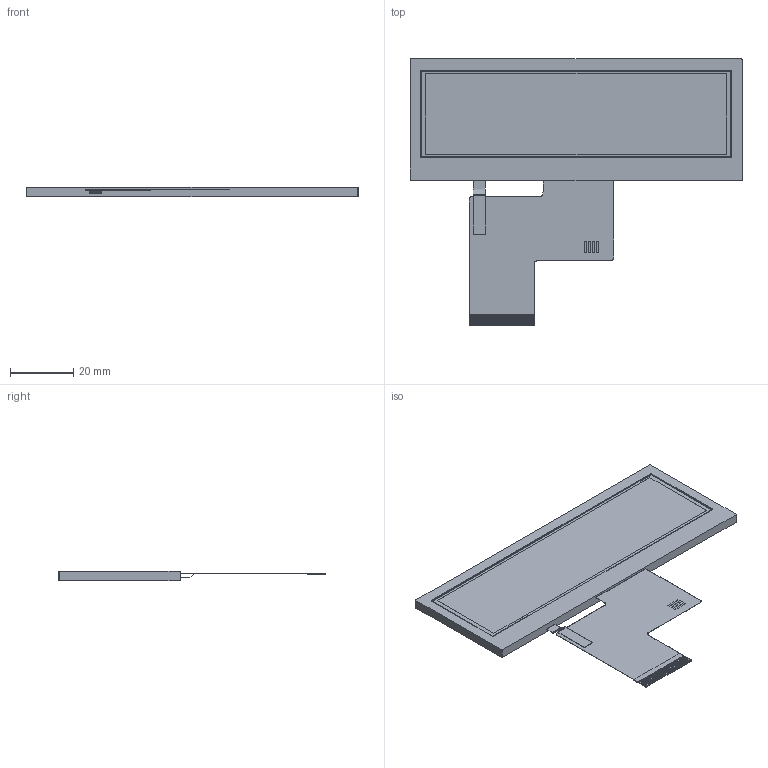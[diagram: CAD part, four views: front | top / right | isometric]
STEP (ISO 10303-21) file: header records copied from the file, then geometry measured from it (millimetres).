
FILE_DESCRIPTION (( 'STEP AP203' ), '1' );
FILE_NAME ('NHD-3.9-480128AF-ASXP_Rev1A.STEP', '2025-01-13T19:37:34', ( '' ), ( '' ), 'SwSTEP 2.0', 'SolidWorks 2019', '' );
FILE_SCHEMA (( 'CONFIG_CONTROL_DESIGN' ));
Length unit declared in the file: millimetre
Products named in the file (2): NHD-3.9-480128AF-ASXP_Rev1A
Bounding box: 104.9 x 84.2 x 2.95 mm (x, y, z)
Volume: 11637.1 mm3; surface area: 22523.4 mm2
Topology: 50 solids, 50 shells, 390 faces, 883 edges, 594 vertices
Faces by surface type: plane 375, cylinder 12, bspline 3
Entity records: 11001 total; most frequent: CARTESIAN_POINT 2156, ORIENTED_EDGE 1766, DIRECTION 1663, EDGE_CURVE 883, VECTOR 837, LINE 837, VERTEX_POINT 594, AXIS2_PLACEMENT_3D 413
